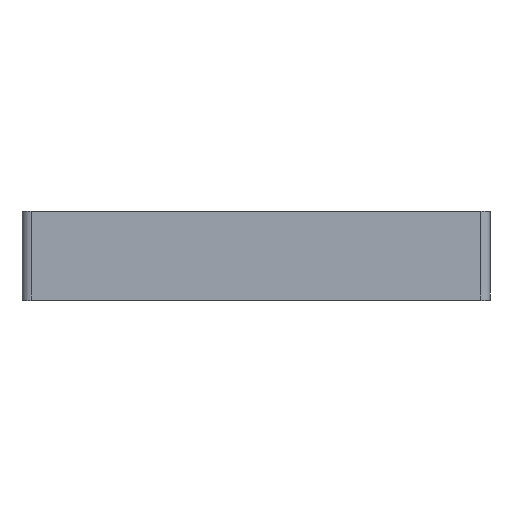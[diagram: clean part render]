
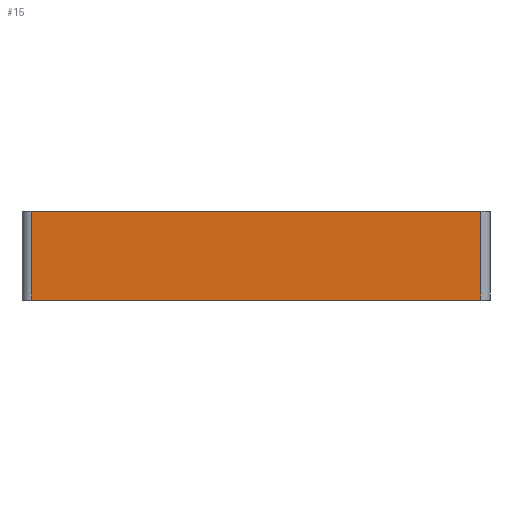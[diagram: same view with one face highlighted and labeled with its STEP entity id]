
A CAD part, top view. The second image highlights one B-rep face of the part: STEP entity #15.
In plain terms, the highlighted planar face has unit normal (0, 0, 1).
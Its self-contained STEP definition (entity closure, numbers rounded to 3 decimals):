
#15 = ADVANCED_FACE ( 'NONE', ( #1450 ), #149, .T. ) ;
#51 = LINE ( 'NONE', #1415, #974 ) ;
#77 = LINE ( 'NONE', #510, #674 ) ;
#95 = VERTEX_POINT ( 'NONE', #1165 ) ;
#129 = DIRECTION ( 'NONE',  ( 1., 0., 0. ) ) ;
#146 = DIRECTION ( 'NONE',  ( 0., 0., 1. ) ) ;
#149 = PLANE ( 'NONE',  #666 ) ;
#152 = LINE ( 'NONE', #998, #1407 ) ;
#252 = DIRECTION ( 'NONE',  ( 0., -1., 0. ) ) ;
#333 = ORIENTED_EDGE ( 'NONE', *, *, #1302, .T. ) ;
#391 = CARTESIAN_POINT ( 'NONE',  ( -50., -19., 50. ) ) ;
#405 = CARTESIAN_POINT ( 'NONE',  ( 48., -19., 50. ) ) ;
#442 = CARTESIAN_POINT ( 'NONE',  ( -50., -19., 50. ) ) ;
#510 = CARTESIAN_POINT ( 'NONE',  ( -50., 0., 50. ) ) ;
#519 = ORIENTED_EDGE ( 'NONE', *, *, #1229, .T. ) ;
#554 = ORIENTED_EDGE ( 'NONE', *, *, #986, .T. ) ;
#666 = AXIS2_PLACEMENT_3D ( 'NONE', #391, #146, #129 ) ;
#673 = DIRECTION ( 'NONE',  ( 0., 1., 0. ) ) ;
#674 = VECTOR ( 'NONE', #1003, 1000. ) ;
#862 = VERTEX_POINT ( 'NONE', #1208 ) ;
#974 = VECTOR ( 'NONE', #673, 1000. ) ;
#986 = EDGE_CURVE ( 'NONE', #862, #1350, #152, .T. ) ;
#998 = CARTESIAN_POINT ( 'NONE',  ( -48., -19., 50. ) ) ;
#1003 = DIRECTION ( 'NONE',  ( 1., 0., 0. ) ) ;
#1059 = EDGE_CURVE ( 'NONE', #862, #95, #77, .T. ) ;
#1125 = VERTEX_POINT ( 'NONE', #405 ) ;
#1165 = CARTESIAN_POINT ( 'NONE',  ( 48., 0., 50. ) ) ;
#1208 = CARTESIAN_POINT ( 'NONE',  ( -48., 0., 50. ) ) ;
#1217 = VECTOR ( 'NONE', #1537, 1000. ) ;
#1229 = EDGE_CURVE ( 'NONE', #1125, #95, #51, .T. ) ;
#1257 = LINE ( 'NONE', #442, #1217 ) ;
#1291 = ORIENTED_EDGE ( 'NONE', *, *, #1059, .F. ) ;
#1301 = CARTESIAN_POINT ( 'NONE',  ( -48., -19., 50. ) ) ;
#1302 = EDGE_CURVE ( 'NONE', #1350, #1125, #1257, .T. ) ;
#1350 = VERTEX_POINT ( 'NONE', #1301 ) ;
#1407 = VECTOR ( 'NONE', #252, 1000. ) ;
#1415 = CARTESIAN_POINT ( 'NONE',  ( 48., -19., 50. ) ) ;
#1450 = FACE_OUTER_BOUND ( 'NONE', #1550, .T. ) ;
#1537 = DIRECTION ( 'NONE',  ( 1., 0., 0. ) ) ;
#1550 = EDGE_LOOP ( 'NONE', ( #333, #519, #1291, #554 ) ) ;
